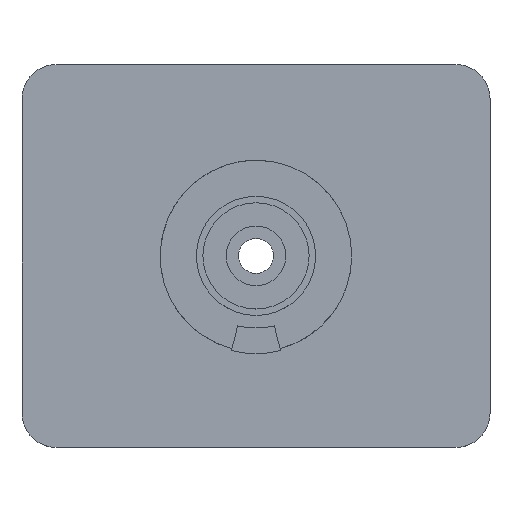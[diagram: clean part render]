
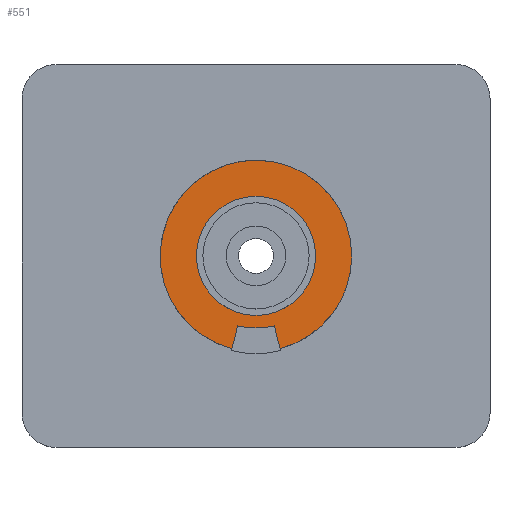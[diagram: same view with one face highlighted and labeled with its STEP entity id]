
A CAD part, top view. The second image highlights one B-rep face of the part: STEP entity #551.
In plain terms, the highlighted planar face has unit normal (0, 0, 1).
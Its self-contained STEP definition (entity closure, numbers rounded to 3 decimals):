
#72 = PLANE('',#73);
#73 = AXIS2_PLACEMENT_3D('',#74,#75,#76);
#74 = CARTESIAN_POINT('',(0.,0.,-105.2));
#75 = DIRECTION('',(0.968,-0.252,0.));
#76 = DIRECTION('',(-0.252,-0.968,0.));
#125 = PLANE('',#126);
#126 = AXIS2_PLACEMENT_3D('',#127,#128,#129);
#127 = CARTESIAN_POINT('',(5.962,-22.888,-105.2));
#128 = DIRECTION('',(-0.968,-0.252,0.));
#129 = DIRECTION('',(-0.252,0.968,0.));
#197 = CYLINDRICAL_SURFACE('',#198,17.);
#198 = AXIS2_PLACEMENT_3D('',#199,#200,#201);
#199 = CARTESIAN_POINT('',(0.,0.,-104.7));
#200 = DIRECTION('',(0.,0.,1.));
#201 = DIRECTION('',(1.,0.,0.));
#215 = VERTEX_POINT('',#216);
#216 = CARTESIAN_POINT('',(5.672,-21.773,-104.));
#229 = CYLINDRICAL_SURFACE('',#230,22.5);
#230 = AXIS2_PLACEMENT_3D('',#231,#232,#233);
#231 = CARTESIAN_POINT('',(0.,0.,-108.7));
#232 = DIRECTION('',(0.,0.,1.));
#233 = DIRECTION('',(1.,0.,0.));
#262 = VERTEX_POINT('',#263);
#263 = CARTESIAN_POINT('',(4.285,-16.451,-104.));
#282 = EDGE_CURVE('',#262,#215,#283,.T.);
#283 = SURFACE_CURVE('',#284,(#288,#294),.PCURVE_S1.);
#284 = LINE('',#285,#286);
#285 = CARTESIAN_POINT('',(2.981,-11.444,-104.));
#286 = VECTOR('',#287,1.);
#287 = DIRECTION('',(0.252,-0.968,0.));
#288 = PCURVE('',#125,#289);
#289 = DEFINITIONAL_REPRESENTATION('',(#290),#293);
#290 = B_SPLINE_CURVE_WITH_KNOTS('',1,(#291,#292),.UNSPECIFIED.,.F.,.F.,
  (2,2),(5.174,11.174),.PIECEWISE_BEZIER_KNOTS.);
#291 = CARTESIAN_POINT('',(6.652,-1.2));
#292 = CARTESIAN_POINT('',(0.652,-1.2));
#293 = ( GEOMETRIC_REPRESENTATION_CONTEXT(2) 
PARAMETRIC_REPRESENTATION_CONTEXT() REPRESENTATION_CONTEXT('2D SPACE',''
  ) );
#294 = PCURVE('',#295,#300);
#295 = PLANE('',#296);
#296 = AXIS2_PLACEMENT_3D('',#297,#298,#299);
#297 = CARTESIAN_POINT('',(0.,0.,-104.));
#298 = DIRECTION('',(0.,0.,1.));
#299 = DIRECTION('',(1.,0.,0.));
#300 = DEFINITIONAL_REPRESENTATION('',(#301),#304);
#301 = B_SPLINE_CURVE_WITH_KNOTS('',1,(#302,#303),.UNSPECIFIED.,.F.,.F.,
  (2,2),(5.174,11.174),.PIECEWISE_BEZIER_KNOTS.);
#302 = CARTESIAN_POINT('',(4.285,-16.451));
#303 = CARTESIAN_POINT('',(5.798,-22.257));
#304 = ( GEOMETRIC_REPRESENTATION_CONTEXT(2) 
PARAMETRIC_REPRESENTATION_CONTEXT() REPRESENTATION_CONTEXT('2D SPACE',''
  ) );
#360 = VERTEX_POINT('',#361);
#361 = CARTESIAN_POINT('',(-5.672,-21.773,-104.));
#380 = EDGE_CURVE('',#360,#381,#383,.T.);
#381 = VERTEX_POINT('',#382);
#382 = CARTESIAN_POINT('',(-4.285,-16.451,-104.));
#383 = SURFACE_CURVE('',#384,(#388,#394),.PCURVE_S1.);
#384 = LINE('',#385,#386);
#385 = CARTESIAN_POINT('',(0.,0.,-104.));
#386 = VECTOR('',#387,1.);
#387 = DIRECTION('',(0.252,0.968,-0.));
#388 = PCURVE('',#72,#389);
#389 = DEFINITIONAL_REPRESENTATION('',(#390),#393);
#390 = B_SPLINE_CURVE_WITH_KNOTS('',1,(#391,#392),.UNSPECIFIED.,.F.,.F.,
  (2,2),(-23.,-17.),.PIECEWISE_BEZIER_KNOTS.);
#391 = CARTESIAN_POINT('',(23.,-1.2));
#392 = CARTESIAN_POINT('',(17.,-1.2));
#393 = ( GEOMETRIC_REPRESENTATION_CONTEXT(2) 
PARAMETRIC_REPRESENTATION_CONTEXT() REPRESENTATION_CONTEXT('2D SPACE',''
  ) );
#394 = PCURVE('',#295,#395);
#395 = DEFINITIONAL_REPRESENTATION('',(#396),#399);
#396 = B_SPLINE_CURVE_WITH_KNOTS('',1,(#397,#398),.UNSPECIFIED.,.F.,.F.,
  (2,2),(-23.,-17.),.PIECEWISE_BEZIER_KNOTS.);
#397 = CARTESIAN_POINT('',(-5.798,-22.257));
#398 = CARTESIAN_POINT('',(-4.285,-16.451));
#399 = ( GEOMETRIC_REPRESENTATION_CONTEXT(2) 
PARAMETRIC_REPRESENTATION_CONTEXT() REPRESENTATION_CONTEXT('2D SPACE',''
  ) );
#426 = EDGE_CURVE('',#381,#262,#427,.T.);
#427 = SURFACE_CURVE('',#428,(#433,#440),.PCURVE_S1.);
#428 = CIRCLE('',#429,17.);
#429 = AXIS2_PLACEMENT_3D('',#430,#431,#432);
#430 = CARTESIAN_POINT('',(0.,0.,-104.));
#431 = DIRECTION('',(0.,0.,1.));
#432 = DIRECTION('',(1.,0.,-0.));
#433 = PCURVE('',#197,#434);
#434 = DEFINITIONAL_REPRESENTATION('',(#435),#439);
#435 = LINE('',#436,#437);
#436 = CARTESIAN_POINT('',(0.,0.7));
#437 = VECTOR('',#438,1.);
#438 = DIRECTION('',(1.,0.));
#439 = ( GEOMETRIC_REPRESENTATION_CONTEXT(2) 
PARAMETRIC_REPRESENTATION_CONTEXT() REPRESENTATION_CONTEXT('2D SPACE',''
  ) );
#440 = PCURVE('',#295,#441);
#441 = DEFINITIONAL_REPRESENTATION('',(#442),#446);
#442 = CIRCLE('',#443,17.);
#443 = AXIS2_PLACEMENT_2D('',#444,#445);
#444 = CARTESIAN_POINT('',(0.,0.));
#445 = DIRECTION('',(1.,0.));
#446 = ( GEOMETRIC_REPRESENTATION_CONTEXT(2) 
PARAMETRIC_REPRESENTATION_CONTEXT() REPRESENTATION_CONTEXT('2D SPACE',''
  ) );
#455 = VERTEX_POINT('',#456);
#456 = CARTESIAN_POINT('',(22.5,0.,-104.));
#477 = EDGE_CURVE('',#215,#455,#478,.T.);
#478 = SURFACE_CURVE('',#479,(#484,#491),.PCURVE_S1.);
#479 = CIRCLE('',#480,22.5);
#480 = AXIS2_PLACEMENT_3D('',#481,#482,#483);
#481 = CARTESIAN_POINT('',(0.,0.,-104.));
#482 = DIRECTION('',(0.,0.,1.));
#483 = DIRECTION('',(1.,0.,0.));
#484 = PCURVE('',#229,#485);
#485 = DEFINITIONAL_REPRESENTATION('',(#486),#490);
#486 = LINE('',#487,#488);
#487 = CARTESIAN_POINT('',(0.,4.7));
#488 = VECTOR('',#489,1.);
#489 = DIRECTION('',(1.,0.));
#490 = ( GEOMETRIC_REPRESENTATION_CONTEXT(2) 
PARAMETRIC_REPRESENTATION_CONTEXT() REPRESENTATION_CONTEXT('2D SPACE',''
  ) );
#491 = PCURVE('',#295,#492);
#492 = DEFINITIONAL_REPRESENTATION('',(#493),#497);
#493 = CIRCLE('',#494,22.5);
#494 = AXIS2_PLACEMENT_2D('',#495,#496);
#495 = CARTESIAN_POINT('',(0.,0.));
#496 = DIRECTION('',(1.,0.));
#497 = ( GEOMETRIC_REPRESENTATION_CONTEXT(2) 
PARAMETRIC_REPRESENTATION_CONTEXT() REPRESENTATION_CONTEXT('2D SPACE',''
  ) );
#502 = EDGE_CURVE('',#455,#360,#503,.T.);
#503 = SURFACE_CURVE('',#504,(#509,#516),.PCURVE_S1.);
#504 = CIRCLE('',#505,22.5);
#505 = AXIS2_PLACEMENT_3D('',#506,#507,#508);
#506 = CARTESIAN_POINT('',(0.,0.,-104.));
#507 = DIRECTION('',(0.,0.,1.));
#508 = DIRECTION('',(1.,0.,0.));
#509 = PCURVE('',#229,#510);
#510 = DEFINITIONAL_REPRESENTATION('',(#511),#515);
#511 = LINE('',#512,#513);
#512 = CARTESIAN_POINT('',(0.,4.7));
#513 = VECTOR('',#514,1.);
#514 = DIRECTION('',(1.,0.));
#515 = ( GEOMETRIC_REPRESENTATION_CONTEXT(2) 
PARAMETRIC_REPRESENTATION_CONTEXT() REPRESENTATION_CONTEXT('2D SPACE',''
  ) );
#516 = PCURVE('',#295,#517);
#517 = DEFINITIONAL_REPRESENTATION('',(#518),#522);
#518 = CIRCLE('',#519,22.5);
#519 = AXIS2_PLACEMENT_2D('',#520,#521);
#520 = CARTESIAN_POINT('',(0.,0.));
#521 = DIRECTION('',(1.,0.));
#522 = ( GEOMETRIC_REPRESENTATION_CONTEXT(2) 
PARAMETRIC_REPRESENTATION_CONTEXT() REPRESENTATION_CONTEXT('2D SPACE',''
  ) );
#551 = ADVANCED_FACE('',(#552,#559),#295,.T.);
#552 = FACE_BOUND('',#553,.T.);
#553 = EDGE_LOOP('',(#554,#555,#556,#557,#558));
#554 = ORIENTED_EDGE('',*,*,#477,.T.);
#555 = ORIENTED_EDGE('',*,*,#502,.T.);
#556 = ORIENTED_EDGE('',*,*,#380,.T.);
#557 = ORIENTED_EDGE('',*,*,#426,.T.);
#558 = ORIENTED_EDGE('',*,*,#282,.T.);
#559 = FACE_BOUND('',#560,.T.);
#560 = EDGE_LOOP('',(#561));
#561 = ORIENTED_EDGE('',*,*,#562,.F.);
#562 = EDGE_CURVE('',#563,#563,#565,.T.);
#563 = VERTEX_POINT('',#564);
#564 = CARTESIAN_POINT('',(14.,0.,-104.));
#565 = SURFACE_CURVE('',#566,(#571,#578),.PCURVE_S1.);
#566 = CIRCLE('',#567,14.);
#567 = AXIS2_PLACEMENT_3D('',#568,#569,#570);
#568 = CARTESIAN_POINT('',(0.,0.,-104.));
#569 = DIRECTION('',(0.,0.,1.));
#570 = DIRECTION('',(1.,0.,-0.));
#571 = PCURVE('',#295,#572);
#572 = DEFINITIONAL_REPRESENTATION('',(#573),#577);
#573 = CIRCLE('',#574,14.);
#574 = AXIS2_PLACEMENT_2D('',#575,#576);
#575 = CARTESIAN_POINT('',(0.,0.));
#576 = DIRECTION('',(1.,0.));
#577 = ( GEOMETRIC_REPRESENTATION_CONTEXT(2) 
PARAMETRIC_REPRESENTATION_CONTEXT() REPRESENTATION_CONTEXT('2D SPACE',''
  ) );
#578 = PCURVE('',#579,#584);
#579 = CYLINDRICAL_SURFACE('',#580,14.);
#580 = AXIS2_PLACEMENT_3D('',#581,#582,#583);
#581 = CARTESIAN_POINT('',(0.,0.,-104.2));
#582 = DIRECTION('',(0.,0.,1.));
#583 = DIRECTION('',(1.,0.,0.));
#584 = DEFINITIONAL_REPRESENTATION('',(#585),#589);
#585 = LINE('',#586,#587);
#586 = CARTESIAN_POINT('',(0.,0.2));
#587 = VECTOR('',#588,1.);
#588 = DIRECTION('',(1.,0.));
#589 = ( GEOMETRIC_REPRESENTATION_CONTEXT(2) 
PARAMETRIC_REPRESENTATION_CONTEXT() REPRESENTATION_CONTEXT('2D SPACE',''
  ) );
